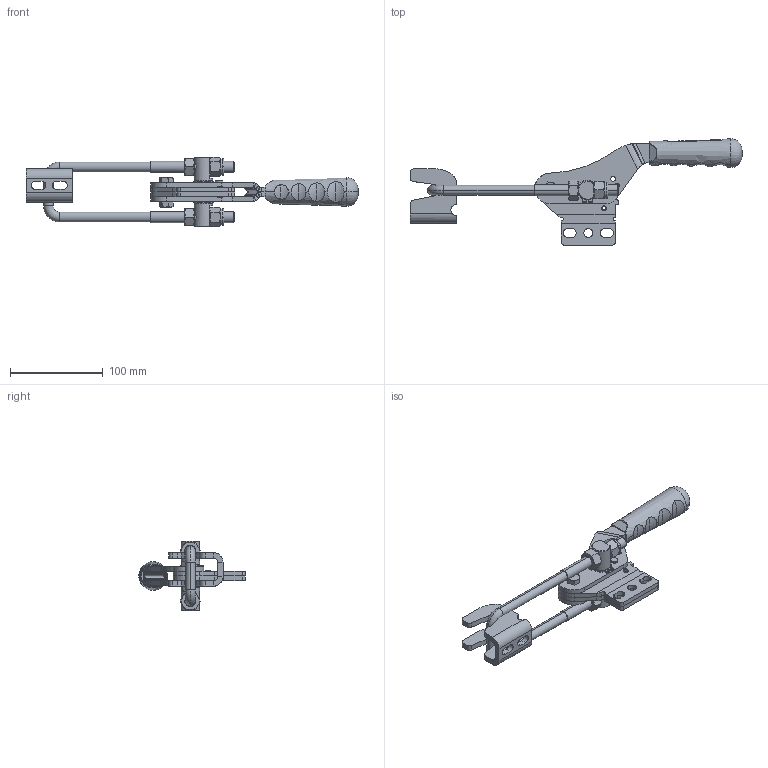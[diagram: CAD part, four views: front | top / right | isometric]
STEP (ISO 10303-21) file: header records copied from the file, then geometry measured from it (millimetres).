
FILE_DESCRIPTION (( 'STEP AP203' ), '1' );
FILE_NAME ('13012_D.STEP', '2022-11-30T09:55:53', ( '' ), ( '' ), 'SwSTEP 2.0', 'SolidWorks 2023', '' );
FILE_SCHEMA (( 'CONFIG_CONTROL_DESIGN' ));
Length unit declared in the file: millimetre
Products named in the file (17): M12_U_Kanca_Varsayılan; M8 Somun_Varsayılan; Pim_5x22_Varsayılan; hexagon_bolt_jis_b_1180_c_m8_x25_Varsayılan; mandal 2; 13210 Gövde; circlips_o20-uni_7435; 13012_D; 13010 H kolu; 1391_Kanca mili_Varsayılan; Karşılık kancası m 12; Aynalama13210 Gövde; autolock_nut_h_fr_nf_e_25-409_m12_6_1; 5-12-1330659; C100_T_10x20(YENİ_TUTAMAK_10x20)_Varsayılan; Aynalama13010 H kolu; 07210-12
Assembly tree (18 placements, depth 2):
  mandal 2
  13012_D
    13210 Gövde
    13010 H kolu
    Aynalama13210 Gövde
    1391_Kanca mili_Varsayılan
    Pim_5x22_Varsayılan
    M8 Somun_Varsayılan
    M12_U_Kanca_Varsayılan
    Karşılık kancası m 12
    Aynalama13010 H kolu
    07210-12  x2
    5-12-1330659
    autolock_nut_h_fr_nf_e_25-409_m12_6_1  x2
    circlips_o20-uni_7435  x2
    hexagon_bolt_jis_b_1180_c_m8_x25_Varsayılan
    C100_T_10x20(YENİ_TUTAMAK_10x20)_Varsayılan
Bounding box: 357.56 x 114.41 x 75 mm (x, y, z)
Volume: 241998.5 mm3; surface area: 109553.2 mm2
Topology: 18 solids, 18 shells, 671 faces, 1679 edges, 1063 vertices
Faces by surface type: plane 328, cylinder 213, cone 76, torus 28, bspline 26
Entity records: 22774 total; most frequent: CARTESIAN_POINT 6505, ORIENTED_EDGE 3028, DIRECTION 2966, EDGE_CURVE 1514, AXIS2_PLACEMENT_3D 1071, VERTEX_POINT 961, VECTOR 824, LINE 824
